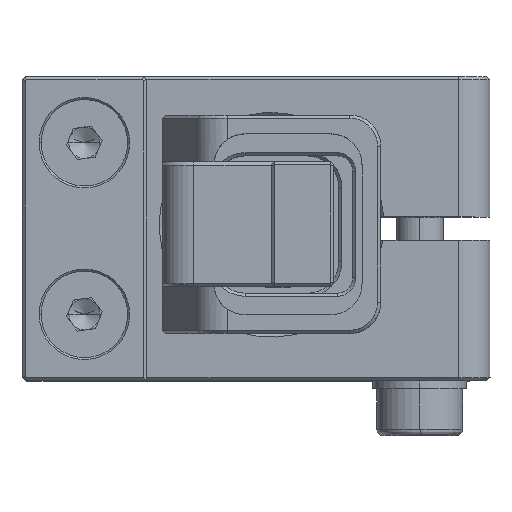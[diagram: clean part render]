
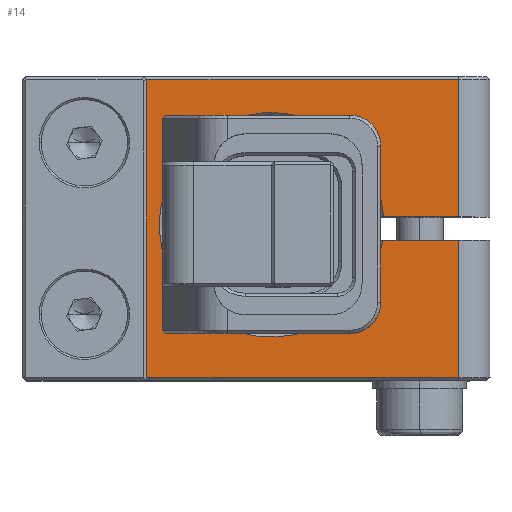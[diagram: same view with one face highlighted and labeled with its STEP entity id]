
A CAD part, top view. The second image highlights one B-rep face of the part: STEP entity #14.
In plain terms, the highlighted planar face has unit normal (0, 0, 1).
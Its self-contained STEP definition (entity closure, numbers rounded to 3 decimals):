
#14 = ADVANCED_FACE ( 'NONE', ( #2563 ), #9126, .T. ) ;
#23 = ORIENTED_EDGE ( 'NONE', *, *, #10353, .T. ) ;
#347 = EDGE_CURVE ( 'NONE', #8088, #8645, #2501, .T. ) ;
#406 = VECTOR ( 'NONE', #5029, 1000. ) ;
#443 = CARTESIAN_POINT ( 'NONE',  ( 7.13, -1., -20.604 ) ) ;
#623 = CARTESIAN_POINT ( 'NONE',  ( 12., -0.25, -20.604 ) ) ;
#812 = EDGE_CURVE ( 'NONE', #2156, #1203, #3060, .T. ) ;
#914 = VECTOR ( 'NONE', #8799, 1000. ) ;
#915 = AXIS2_PLACEMENT_3D ( 'NONE', #7012, #1573, #7959 ) ;
#1035 = DIRECTION ( 'NONE',  ( 1., 0., 0. ) ) ;
#1172 = VECTOR ( 'NONE', #3918, 1000. ) ;
#1203 = VERTEX_POINT ( 'NONE', #1539 ) ;
#1539 = CARTESIAN_POINT ( 'NONE',  ( 12., -1., -20.604 ) ) ;
#1573 = DIRECTION ( 'NONE',  ( 0., 0., -1. ) ) ;
#1615 = ORIENTED_EDGE ( 'NONE', *, *, #3755, .T. ) ;
#1951 = CARTESIAN_POINT ( 'NONE',  ( 7.183, 0.5, -20.604 ) ) ;
#2156 = VERTEX_POINT ( 'NONE', #4648 ) ;
#2501 = LINE ( 'NONE', #623, #9637 ) ;
#2563 = FACE_OUTER_BOUND ( 'NONE', #11895, .T. ) ;
#3060 = LINE ( 'NONE', #4385, #406 ) ;
#3298 = ORIENTED_EDGE ( 'NONE', *, *, #5541, .T. ) ;
#3483 = EDGE_CURVE ( 'NONE', #8645, #10788, #7886, .T. ) ;
#3659 = CIRCLE ( 'NONE', #915, 7.2 ) ;
#3707 = CARTESIAN_POINT ( 'NONE',  ( -4., 0.5, -20.604 ) ) ;
#3755 = EDGE_CURVE ( 'NONE', #4272, #8088, #7746, .T. ) ;
#3918 = DIRECTION ( 'NONE',  ( 1., 0., 0. ) ) ;
#4214 = DIRECTION ( 'NONE',  ( 0., 1., 0. ) ) ;
#4260 = ORIENTED_EDGE ( 'NONE', *, *, #10598, .T. ) ;
#4272 = VERTEX_POINT ( 'NONE', #1951 ) ;
#4385 = CARTESIAN_POINT ( 'NONE',  ( 12., -0.25, -20.604 ) ) ;
#4648 = CARTESIAN_POINT ( 'NONE',  ( 12., -9.8, -20.604 ) ) ;
#5029 = DIRECTION ( 'NONE',  ( 0., 1., 0. ) ) ;
#5214 = VECTOR ( 'NONE', #9018, 1000. ) ;
#5229 = LINE ( 'NONE', #9402, #9950 ) ;
#5262 = VECTOR ( 'NONE', #1035, 1000. ) ;
#5468 = CARTESIAN_POINT ( 'NONE',  ( 12., 9.3, -20.604 ) ) ;
#5541 = EDGE_CURVE ( 'NONE', #10788, #7258, #5800, .T. ) ;
#5709 = ORIENTED_EDGE ( 'NONE', *, *, #347, .T. ) ;
#5732 = CARTESIAN_POINT ( 'NONE',  ( -4., -9.8, -20.604 ) ) ;
#5800 = LINE ( 'NONE', #10899, #5214 ) ;
#6849 = ORIENTED_EDGE ( 'NONE', *, *, #3483, .T. ) ;
#7012 = CARTESIAN_POINT ( 'NONE',  ( 0., 0., -20.604 ) ) ;
#7245 = CARTESIAN_POINT ( 'NONE',  ( -8., -9.8, -20.604 ) ) ;
#7258 = VERTEX_POINT ( 'NONE', #7245 ) ;
#7746 = LINE ( 'NONE', #3707, #5262 ) ;
#7886 = LINE ( 'NONE', #8330, #914 ) ;
#7959 = DIRECTION ( 'NONE',  ( 1., 0., 0. ) ) ;
#8088 = VERTEX_POINT ( 'NONE', #11678 ) ;
#8330 = CARTESIAN_POINT ( 'NONE',  ( -4., 9.3, -20.604 ) ) ;
#8645 = VERTEX_POINT ( 'NONE', #5468 ) ;
#8699 = ORIENTED_EDGE ( 'NONE', *, *, #10764, .T. ) ;
#8731 = ORIENTED_EDGE ( 'NONE', *, *, #812, .T. ) ;
#8799 = DIRECTION ( 'NONE',  ( -1., 0., 0. ) ) ;
#9018 = DIRECTION ( 'NONE',  ( 0., -1., 0. ) ) ;
#9126 = PLANE ( 'NONE',  #11764 ) ;
#9136 = DIRECTION ( 'NONE',  ( 0., 0., 1. ) ) ;
#9169 = DIRECTION ( 'NONE',  ( 1., 0., 0. ) ) ;
#9273 = CARTESIAN_POINT ( 'NONE',  ( -4., -0.25, -20.604 ) ) ;
#9402 = CARTESIAN_POINT ( 'NONE',  ( 1.758, -1., -20.604 ) ) ;
#9637 = VECTOR ( 'NONE', #4214, 1000. ) ;
#9950 = VECTOR ( 'NONE', #10354, 1000. ) ;
#10353 = EDGE_CURVE ( 'NONE', #7258, #2156, #11005, .T. ) ;
#10354 = DIRECTION ( 'NONE',  ( -1., 0., 0. ) ) ;
#10393 = CARTESIAN_POINT ( 'NONE',  ( -8., 9.3, -20.604 ) ) ;
#10425 = VERTEX_POINT ( 'NONE', #443 ) ;
#10598 = EDGE_CURVE ( 'NONE', #10425, #4272, #3659, .T. ) ;
#10764 = EDGE_CURVE ( 'NONE', #1203, #10425, #5229, .T. ) ;
#10788 = VERTEX_POINT ( 'NONE', #10393 ) ;
#10899 = CARTESIAN_POINT ( 'NONE',  ( -8., -0.25, -20.604 ) ) ;
#11005 = LINE ( 'NONE', #5732, #1172 ) ;
#11678 = CARTESIAN_POINT ( 'NONE',  ( 12., 0.5, -20.604 ) ) ;
#11764 = AXIS2_PLACEMENT_3D ( 'NONE', #9273, #9136, #9169 ) ;
#11895 = EDGE_LOOP ( 'NONE', ( #8731, #8699, #4260, #1615, #5709, #6849, #3298, #23 ) ) ;
